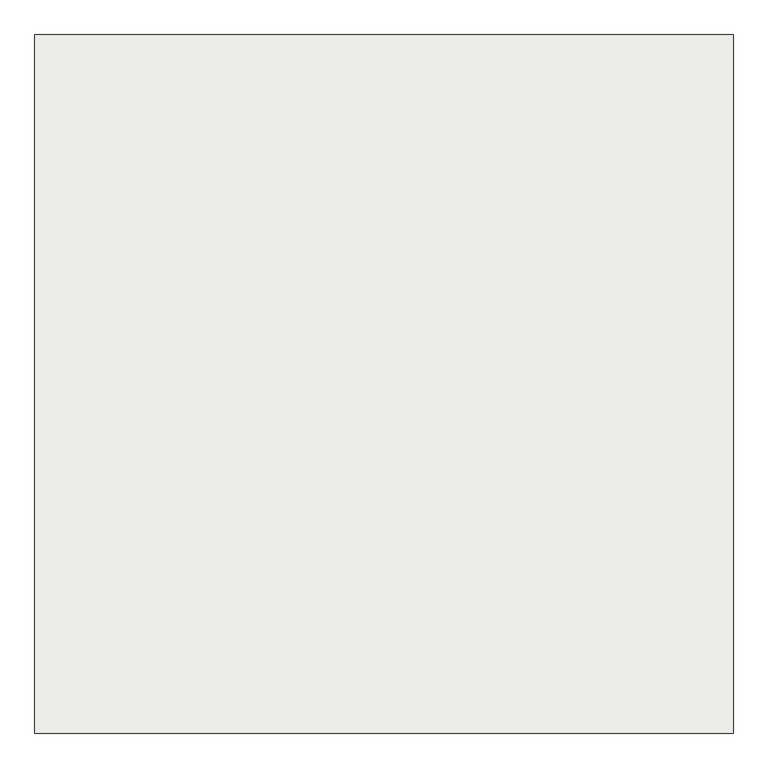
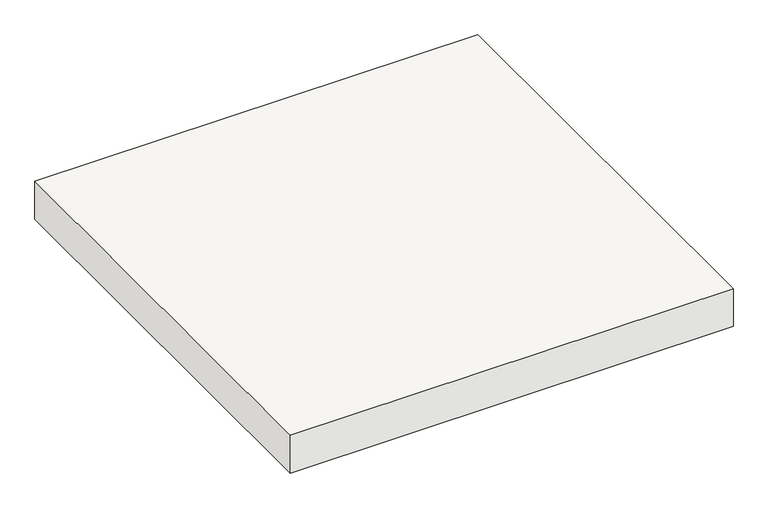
"""IFC4 building model written with IfcOpenShell, lengths in millimetres: roof geometry, Basic Roof:27_RO_dakplaat_enkelschalig_PIR_135_33-90-12:69928 : Basic Roof:27_RO_dakplaat_enkelschalig_PIR_135_33-90-12:69928."""

from ifc_helpers import new_model, si_unit, origin, origin_with_axes, place, context, project, spatial, polyline, outline, extrude, source, transform, mapped, element, save


def roof_7d214786(model_context):
    return source(origin(), model_context, "Body", "SweptSolid", [
        extrude(outline(polyline([(36193.347385, -9415.0), (34693.347385, -9415.0), (34693.347385, -7915.0), (36193.347385, -7915.0), (36193.347385, -9415.0)])), origin_with_axes(), (0.0, 0.0, 1.0), 135.0),
    ])


if __name__ == "__main__":
    model = new_model("IFC4")
    model_context = context("Model", 3, world=origin())
    ifc_project = project(units=[si_unit("LENGTHUNIT", "METRE", prefix="MILLI")], contexts=[model_context])
    site = spatial("IfcSite", under=ifc_project)
    building = spatial("IfcBuilding", under=site)
    placement = place(None, origin())
    roof_shape = roof_7d214786(model_context)
    element("IfcRoof", 1, ObjectType="Basic Roof:27_RO_dakplaat_enkelschalig_PIR_135_33-90-12:69928 : Basic Roof:27_RO_dakplaat_enkelschalig_PIR_135_33-90-12:69928", at=placement, inside=building, context=model_context, shape_type="MappedRepresentation", body=[
        mapped(roof_shape, transform((0.0, 0.0, 0.0), x_axis=(1.0, 0.0, 0.0), y_axis=(0.0, 1.0, 0.0), z_axis=(0.0, 0.0, 1.0))),
    ])
    save(model, "model.ifc")
